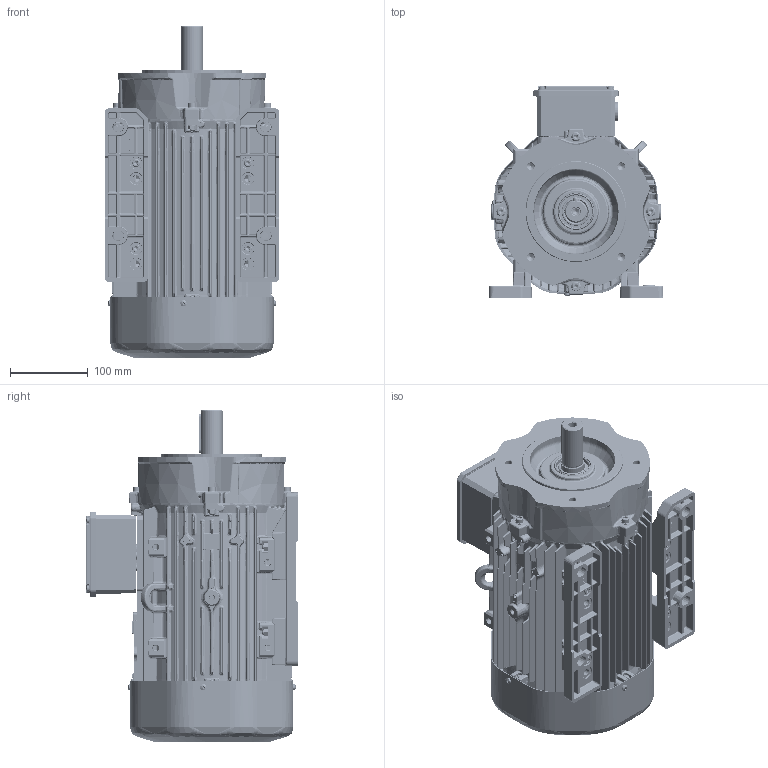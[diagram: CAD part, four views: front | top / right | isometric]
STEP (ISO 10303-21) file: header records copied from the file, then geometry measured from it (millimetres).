
FILE_DESCRIPTION(/* description */ (''),/* implementation_level */ '2;1');
FILE_NAME(/* name */ 'OUTLOOK VIEW QH112 PC B34 - BIGGER FT165 SPL.stp',/* time_stamp */ '2021-09-13T12:35:07+03:00',/* author */ (''),/* organization */ (''),/* preprocessor_version */ 'ST-DEVELOPER v16',/* originating_system */ 'SIEMENS PLM Software NX 11.0',/* authorisation */ '');
FILE_SCHEMA (('AUTOMOTIVE_DESIGN { 1 0 10303 214 3 1 1 1 }'));
Products named in the file (1): 26062CE45B9Cd5k4
Bounding box: 225.12 x 274 x 427.6 mm (x, y, z)
Volume: 2824084.6 mm3; surface area: 1293565.1 mm2
Topology: 80 solids, 86 shells, 13433 faces, 31658 edges, 17901 vertices
Faces by surface type: cylinder 4360, bspline 4008, plane 2680, sphere 1021, torus 665, cone 645, extrusion 54
Full cylindrical faces by diameter (mm): 2 x14, 3 x2, 3.3 x4, 3.7 x4, 3.985 x1, 4 x9, 4.22 x1, 4.6 x3, 4.722 x2, 5 x11, 6 x12, 6.4 x16, 8 x9, 8.4 x1, 8.5 x5, 10 x12, 10.5 x1, 12 x12, 16 x1, 23.38 x2, 24.4 x1, 25 x3, 27.4 x1, 28 x1, 28.6 x1, 29.4 x2, 30 x5, 30.2 x1, 30.5 x1, 32.94 x1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
Entity records: 458609 total; most frequent: CARTESIAN_POINT 177608, ORIENTED_EDGE 60484, DIRECTION 55637, EDGE_CURVE 30242, AXIS2_PLACEMENT_3D 22979, VERTEX_POINT 17700, EDGE_LOOP 14624, ADVANCED_FACE 13426
